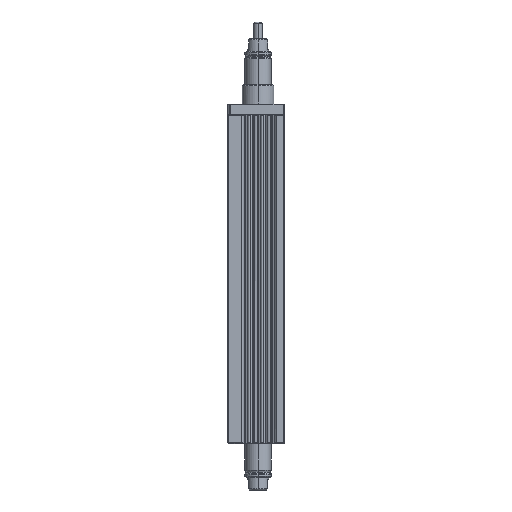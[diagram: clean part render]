
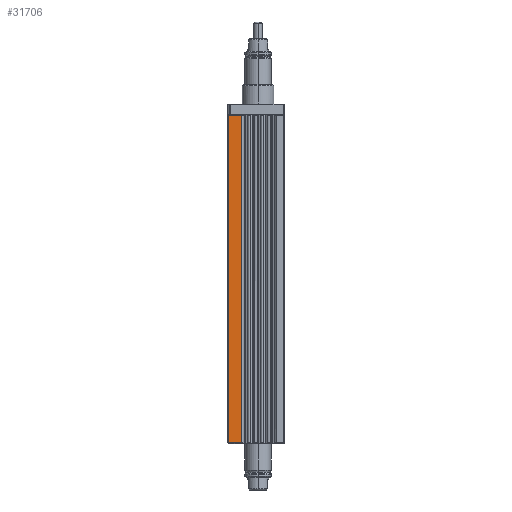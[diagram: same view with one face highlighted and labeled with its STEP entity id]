
A CAD part, front view. The second image highlights one B-rep face of the part: STEP entity #31706.
In plain terms, the highlighted planar face has unit normal (0, -1, 0) as drawn and (-1, 0, 0) by its records, which use the part's own axes.
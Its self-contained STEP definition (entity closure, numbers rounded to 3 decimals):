
#2275 = AXIS2_PLACEMENT_3D ( 'NONE', #8938, #8974, #8976 ) ;
#8938 = CARTESIAN_POINT ( 'NONE',  ( -34., 28.5, -313. ) ) ;
#8962 = FACE_OUTER_BOUND ( 'NONE', #34824, .T. ) ;
#8965 = PLANE ( 'NONE',  #2275 ) ;
#8974 = DIRECTION ( 'NONE',  ( -1., 0., 0. ) ) ;
#8976 = DIRECTION ( 'NONE',  ( 0., -1., 0. ) ) ;
#16355 = LINE ( 'NONE', #16358, #48531 ) ;
#16358 = CARTESIAN_POINT ( 'NONE',  ( -34., 15.6, -313. ) ) ;
#16361 = DIRECTION ( 'NONE',  ( 0., 0., 1. ) ) ;
#16366 = LINE ( 'NONE', #16378, #48529 ) ;
#16371 = LINE ( 'NONE', #16372, #48521 ) ;
#16372 = CARTESIAN_POINT ( 'NONE',  ( -34., -25., -1. ) ) ;
#16373 = DIRECTION ( 'NONE',  ( 0., 1., 0. ) ) ;
#16374 = LINE ( 'NONE', #16376, #48519 ) ;
#16376 = CARTESIAN_POINT ( 'NONE',  ( -34., 28.5, -313. ) ) ;
#16377 = DIRECTION ( 'NONE',  ( 0., 0., 1. ) ) ;
#16378 = CARTESIAN_POINT ( 'NONE',  ( -34., -25., -312. ) ) ;
#16380 = DIRECTION ( 'NONE',  ( 0., 1., 0. ) ) ;
#31706 = ADVANCED_FACE ( 'NONE', ( #8962 ), #8965, .T. ) ;
#32367 = EDGE_CURVE ( 'NONE', #61025, #60924, #16355, .T. ) ;
#32371 = EDGE_CURVE ( 'NONE', #60924, #60949, #16371, .T. ) ;
#32372 = EDGE_CURVE ( 'NONE', #61049, #60949, #16374, .T. ) ;
#32373 = EDGE_CURVE ( 'NONE', #61025, #61049, #16366, .T. ) ;
#32709 = ORIENTED_EDGE ( 'NONE', *, *, #32373, .F. ) ;
#32710 = ORIENTED_EDGE ( 'NONE', *, *, #32372, .F. ) ;
#32711 = ORIENTED_EDGE ( 'NONE', *, *, #32371, .T. ) ;
#32712 = ORIENTED_EDGE ( 'NONE', *, *, #32367, .T. ) ;
#34824 = EDGE_LOOP ( 'NONE', ( #32712, #32711, #32710, #32709 ) ) ;
#48519 = VECTOR ( 'NONE', #16377, 1000. ) ;
#48521 = VECTOR ( 'NONE', #16373, 1000. ) ;
#48529 = VECTOR ( 'NONE', #16380, 1000. ) ;
#48531 = VECTOR ( 'NONE', #16361, 1000. ) ;
#59371 = CARTESIAN_POINT ( 'NONE',  ( -34., 15.6, -1. ) ) ;
#59421 = CARTESIAN_POINT ( 'NONE',  ( -34., 28.5, -1. ) ) ;
#59573 = CARTESIAN_POINT ( 'NONE',  ( -34., 15.6, -312. ) ) ;
#59621 = CARTESIAN_POINT ( 'NONE',  ( -34., 28.5, -312. ) ) ;
#60924 = VERTEX_POINT ( 'NONE', #59371 ) ;
#60949 = VERTEX_POINT ( 'NONE', #59421 ) ;
#61025 = VERTEX_POINT ( 'NONE', #59573 ) ;
#61049 = VERTEX_POINT ( 'NONE', #59621 ) ;
